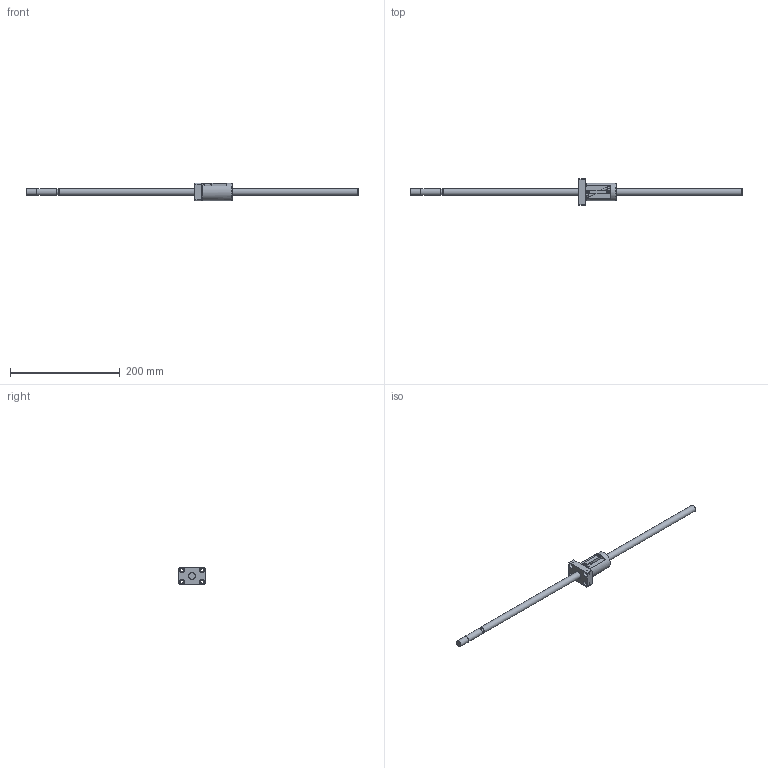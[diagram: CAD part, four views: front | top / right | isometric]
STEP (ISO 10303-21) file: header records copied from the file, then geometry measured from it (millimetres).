
FILE_DESCRIPTION((''),'2;1');
FILE_NAME('D:\製品 (図面)\カタログ用3D\ネジ関連\STEP形式\KBS(C)\KBS(C)1220-605.stp','2010-06-02T09:22:41',('Tsuchiya'),(''),'Autodesk Inventor 10','Autodesk Inventor 10','');
FILE_SCHEMA(('AUTOMOTIVE_DESIGN { 1 0 10303 214 1 1 1 1 }'));
Length unit declared in the file: millimetre
Products named in the file (3): KBS(C)1220-605; KBS(C)1220-6051; KBS(C)1220-6052
Assembly tree (2 placements, depth 2):
  KBS(C)1220-605
    KBS(C)1220-6051
    KBS(C)1220-6052
Bounding box: 605 x 48 x 32 mm (x, y, z)
Volume: 118710.1 mm3; surface area: 38049.7 mm2
Topology: 2 solids, 2 shells, 97 faces, 238 edges, 157 vertices
Faces by surface type: plane 43, cylinder 29, bspline 20, cone 3, torus 2
Full cylindrical faces by diameter (mm): 3.2 x1, 5.5 x4, 5.6 x1, 5.7 x2, 9.5 x5, 11.7 x1, 12 x3, 14 x2, 32 x1
Entity records: 3021 total; most frequent: CARTESIAN_POINT 846, ORIENTED_EDGE 404, DIRECTION 402, EDGE_CURVE 202, EDGE_LOOP 154, AXIS2_PLACEMENT_3D 150, VERTEX_POINT 150, VECTOR 102
